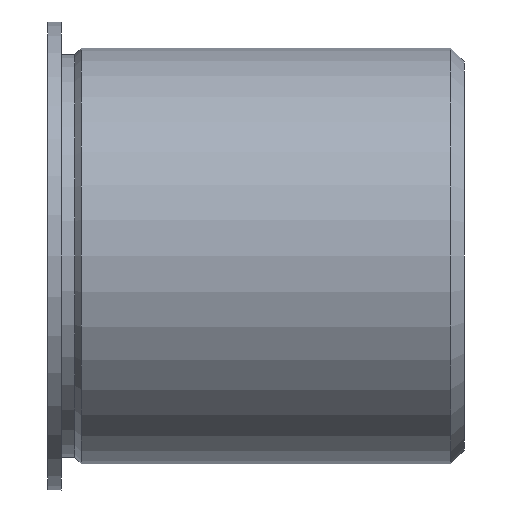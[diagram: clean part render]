
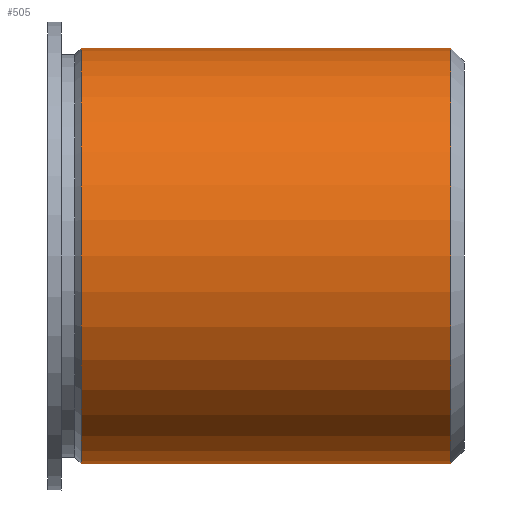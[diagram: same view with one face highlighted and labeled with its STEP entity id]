
A CAD part, front view. The second image highlights one B-rep face of the part: STEP entity #505.
In plain terms, the highlighted cylindrical face has radius 3.969 mm (diameter 7.938 mm), a partial arc.
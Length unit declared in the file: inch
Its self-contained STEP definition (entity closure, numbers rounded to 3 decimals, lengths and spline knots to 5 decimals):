
#1 = EDGE_CURVE ( 'NONE', #580, #249, #285, .T. ) ;
#7 = CARTESIAN_POINT ( 'NONE',  ( -2.08824, 3.72648, 0.15625 ) ) ;
#19 = DIRECTION ( 'NONE',  ( 0., 0., 1. ) ) ;
#72 = CARTESIAN_POINT ( 'NONE',  ( -2.08824, 3.72648, 0. ) ) ;
#83 = EDGE_CURVE ( 'NONE', #95, #249, #153, .T. ) ;
#87 = VECTOR ( 'NONE', #375, 39.37008 ) ;
#95 = VERTEX_POINT ( 'NONE', #270 ) ;
#100 = CIRCLE ( 'NONE', #131, 0.15625 ) ;
#106 = VECTOR ( 'NONE', #179, 39.37008 ) ;
#115 = EDGE_CURVE ( 'NONE', #489, #580, #100, .T. ) ;
#118 = DIRECTION ( 'NONE',  ( 0., 0., 1. ) ) ;
#121 = EDGE_LOOP ( 'NONE', ( #468, #452, #436, #455 ) ) ;
#131 = AXIS2_PLACEMENT_3D ( 'NONE', #335, #422, #19 ) ;
#138 = CYLINDRICAL_SURFACE ( 'NONE', #531, 0.15625 ) ;
#153 = CIRCLE ( 'NONE', #479, 0.15625 ) ;
#172 = EDGE_CURVE ( 'NONE', #489, #95, #361, .T. ) ;
#179 = DIRECTION ( 'NONE',  ( -1., 0., 0. ) ) ;
#187 = CARTESIAN_POINT ( 'NONE',  ( -2.08824, 3.72648, -0.15625 ) ) ;
#221 = CARTESIAN_POINT ( 'NONE',  ( -1.78524, 3.72648, 0.15625 ) ) ;
#249 = VERTEX_POINT ( 'NONE', #379 ) ;
#256 = FACE_OUTER_BOUND ( 'NONE', #121, .T. ) ;
#270 = CARTESIAN_POINT ( 'NONE',  ( -2.06324, 3.72648, -0.15625 ) ) ;
#285 = LINE ( 'NONE', #7, #106 ) ;
#335 = CARTESIAN_POINT ( 'NONE',  ( -1.78524, 3.72648, 0. ) ) ;
#361 = LINE ( 'NONE', #187, #87 ) ;
#375 = DIRECTION ( 'NONE',  ( -1., 0., 0. ) ) ;
#379 = CARTESIAN_POINT ( 'NONE',  ( -2.06324, 3.72648, 0.15625 ) ) ;
#422 = DIRECTION ( 'NONE',  ( -1., 0., 0. ) ) ;
#436 = ORIENTED_EDGE ( 'NONE', *, *, #1, .T. ) ;
#448 = CARTESIAN_POINT ( 'NONE',  ( -1.78524, 3.72648, -0.15625 ) ) ;
#452 = ORIENTED_EDGE ( 'NONE', *, *, #115, .T. ) ;
#454 = DIRECTION ( 'NONE',  ( 0., 0., 1. ) ) ;
#455 = ORIENTED_EDGE ( 'NONE', *, *, #83, .F. ) ;
#468 = ORIENTED_EDGE ( 'NONE', *, *, #172, .F. ) ;
#479 = AXIS2_PLACEMENT_3D ( 'NONE', #494, #498, #454 ) ;
#489 = VERTEX_POINT ( 'NONE', #448 ) ;
#491 = DIRECTION ( 'NONE',  ( -1., 0., 0. ) ) ;
#494 = CARTESIAN_POINT ( 'NONE',  ( -2.06324, 3.72648, 0. ) ) ;
#498 = DIRECTION ( 'NONE',  ( -1., 0., 0. ) ) ;
#505 = ADVANCED_FACE ( 'NONE', ( #256 ), #138, .T. ) ;
#531 = AXIS2_PLACEMENT_3D ( 'NONE', #72, #491, #118 ) ;
#580 = VERTEX_POINT ( 'NONE', #221 ) ;
